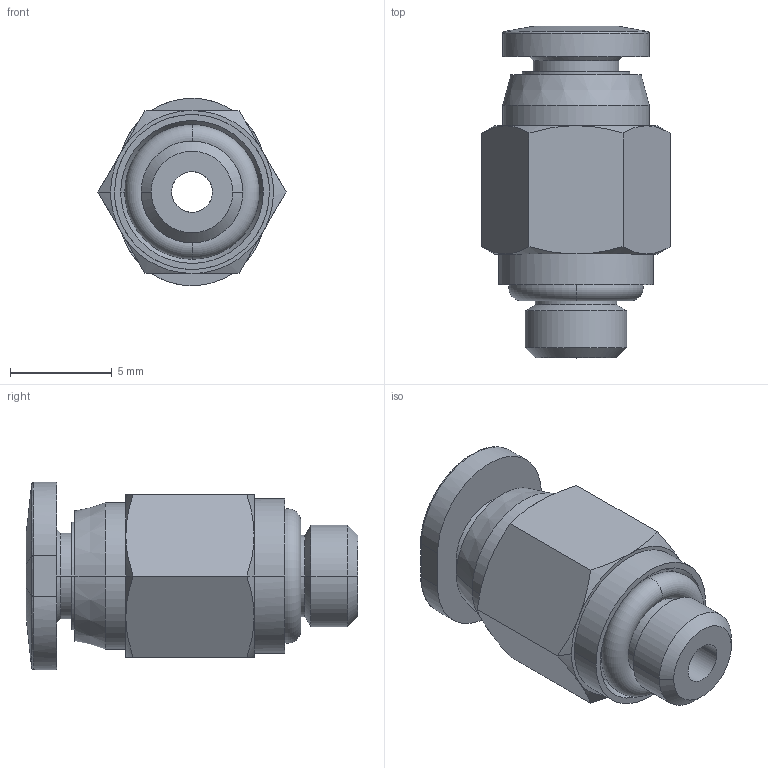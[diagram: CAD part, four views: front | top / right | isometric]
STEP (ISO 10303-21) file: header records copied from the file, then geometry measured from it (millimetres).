
FILE_DESCRIPTION (( 'STEP AP203' ), '1' );
FILE_NAME ('FMH03-M5.STEP', '2020-07-07T10:48:39', ( '' ), ( '' ), 'SwSTEP 2.0', 'SolidWorks 2019', '' );
FILE_SCHEMA (( 'CONFIG_CONTROL_DESIGN' ));
Length unit declared in the file: millimetre
Products named in the file (1): FMH03-M5
Bounding box: 9.24 x 16.3 x 9.2 mm (x, y, z)
Surface area: 764.5 mm2 (no closed solid volume)
Topology: 0 solids, 4 shells, 83 faces, 186 edges, 114 vertices
Faces by surface type: cone 26, cylinder 20, plane 19, bspline 12, torus 6
Entity records: 4482 total; most frequent: CARTESIAN_POINT 2904, ORIENTED_EDGE 356, DIRECTION 188, EDGE_CURVE 186, B_SPLINE_CURVE_WITH_KNOTS 148, VERTEX_POINT 114, EDGE_LOOP 94, FACE_OUTER_BOUND 83
